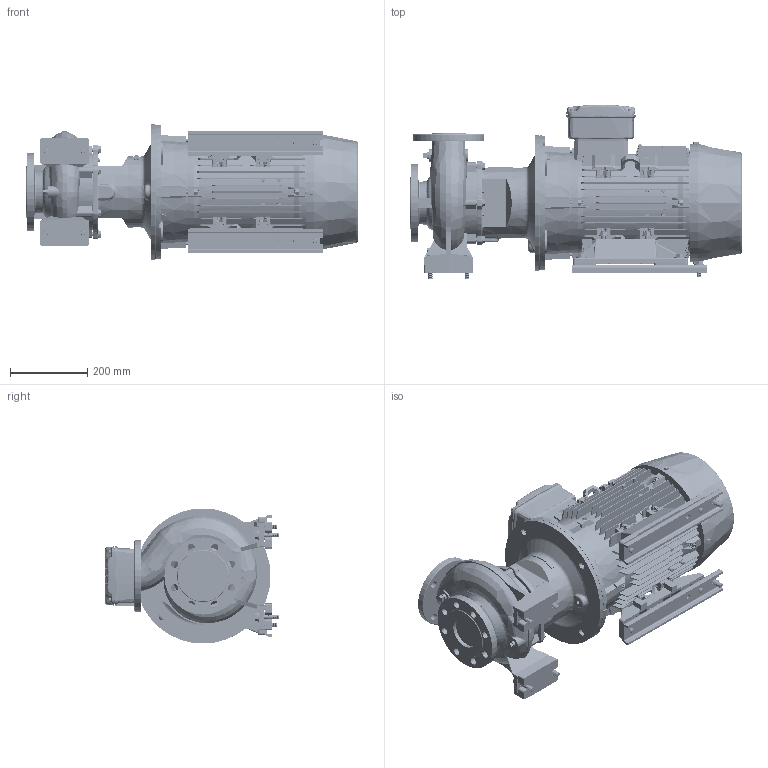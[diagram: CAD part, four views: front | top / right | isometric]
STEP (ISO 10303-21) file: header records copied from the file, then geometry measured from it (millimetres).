
FILE_DESCRIPTION (( 'STEP AP214' ), '1' );
FILE_NAME ('GSD2 65-125_11.0_(160ML)_W21.STEP', '2026-07-09T05:49:07', ( '' ), ( '' ), 'SwSTEP 2.0', 'SolidWorks 2024', '' );
FILE_SCHEMA (( 'AUTOMOTIVE_DESIGN' ));
Length unit declared in the file: millimetre
Products named in the file (10): CGS11-5311_2_3_4_5_CGS11-5311; Parametric bolt and washer_SFT-A301B; Parametric Flat Washer_M12; 210_254 x 20 - 271472113; GSD2  65-125_11.0_(160ML)_W21; Parametric bolt and washer_SFT-A309B; 160M_L_ALIE3_W21T_B35; Parametric bolt_SFT-A309B; Parametric bolt_SFT-A301B; 65-125-160M_L_ﾃﾞﾌｫﾙﾄ
Assembly tree (20 placements, depth 3):
  GSD2  65-125_11.0_(160ML)_W21
    65-125-160M_L_ﾃﾞﾌｫﾙﾄ
    CGS11-5311_2_3_4_5_CGS11-5311  x2
    210_254 x 20 - 271472113  x2
    Parametric bolt and washer_SFT-A309B  x4
      Parametric bolt_SFT-A309B
      Parametric Flat Washer_M12
    Parametric bolt and washer_SFT-A301B  x6
      Parametric bolt_SFT-A301B
      Parametric Flat Washer_M12
    160M_L_ALIE3_W21T_B35
Bounding box: 860.3 x 452.03 x 350 mm (x, y, z)
Volume: 43960352.3 mm3; surface area: 2873133.2 mm2
Topology: 54 solids, 60 shells, 6111 faces, 15834 edges, 10258 vertices
Faces by surface type: plane 3677, cylinder 1219, cone 532, bspline 434, torus 233, sphere 16
Entity records: 218782 total; most frequent: CARTESIAN_POINT 88118, ORIENTED_EDGE 28688, DIRECTION 24203, EDGE_CURVE 14344, VERTEX_POINT 9298, LINE 9233, VECTOR 9233, AXIS2_PLACEMENT_3D 7485
